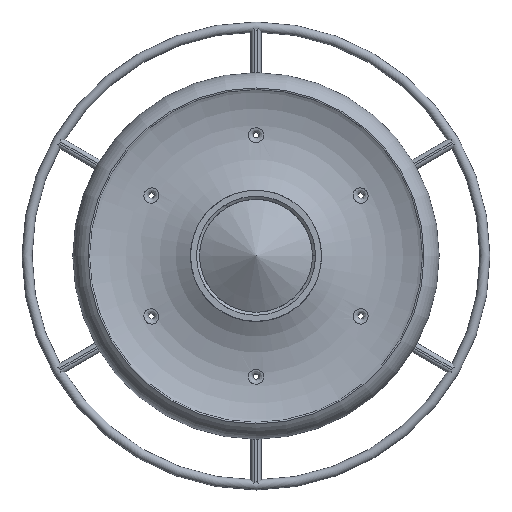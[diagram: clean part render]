
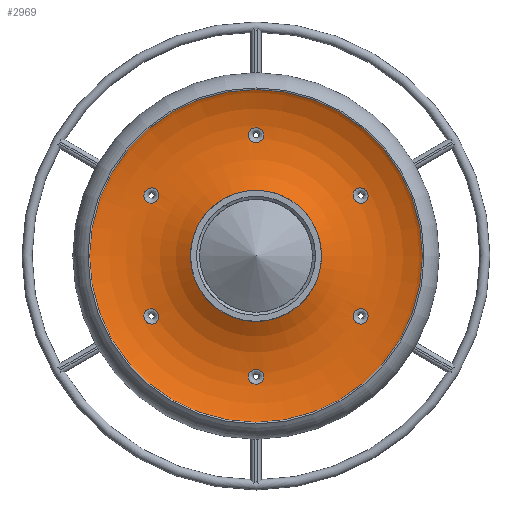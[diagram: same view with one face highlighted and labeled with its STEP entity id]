
A CAD part, top view. The second image highlights one B-rep face of the part: STEP entity #2969.
In plain terms, the highlighted toroidal (fillet/blend) face has major radius 48.65 mm and minor radius 40 mm.
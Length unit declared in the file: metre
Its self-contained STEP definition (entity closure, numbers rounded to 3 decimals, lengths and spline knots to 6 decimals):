
#21=TOROIDAL_SURFACE('',#3421,0.04865,0.04);
#64=B_SPLINE_CURVE_WITH_KNOTS('',3,(#6109,#6110,#6111,#6112,#6113,#6114,
#6115,#6116,#6117,#6118,#6119),.UNSPECIFIED.,.T.,.F.,(1,1,1,1,1,1,1,1,1,
1,1,1,1,1,1),(-0.007202,-0.004801,-0.002401,
0.,0.002401,0.004801,0.007202,
0.009602,0.012003,0.014403,0.016804,
0.019204,0.021605,0.024005,0.026406),
 .UNSPECIFIED.);
#65=B_SPLINE_CURVE_WITH_KNOTS('',3,(#6121,#6122,#6123,#6124,#6125,#6126,
#6127,#6128,#6129,#6130,#6131),.UNSPECIFIED.,.T.,.F.,(1,1,1,1,1,1,1,1,1,
1,1,1,1,1,1),(-0.007115,-0.004743,-0.002372,
0.,0.002372,0.004743,0.007115,0.009486,
0.011858,0.014229,0.016601,0.018973,
0.021344,0.023716,0.026087),.UNSPECIFIED.);
#66=B_SPLINE_CURVE_WITH_KNOTS('',3,(#6133,#6134,#6135,#6136,#6137,#6138,
#6139,#6140,#6141,#6142,#6143),.UNSPECIFIED.,.T.,.F.,(1,1,1,1,1,1,1,1,1,
1,1,1,1,1,1),(-0.007117,-0.004744,-0.002372,
0.,0.002372,0.004744,0.007117,0.009489,
0.011861,0.014233,0.016605,0.018977,
0.02135,0.023722,0.026094),.UNSPECIFIED.);
#67=B_SPLINE_CURVE_WITH_KNOTS('',3,(#6145,#6146,#6147,#6148,#6149,#6150,
#6151,#6152,#6153,#6154,#6155),.UNSPECIFIED.,.T.,.F.,(1,1,1,1,1,1,1,1,1,
1,1,1,1,1,1),(-0.007106,-0.004737,-0.002369,
0.,0.002369,0.004737,0.007106,0.009474,
0.011843,0.014212,0.01658,0.018949,
0.021317,0.023686,0.026055),.UNSPECIFIED.);
#68=B_SPLINE_CURVE_WITH_KNOTS('',3,(#6157,#6158,#6159,#6160,#6161,#6162,
#6163,#6164,#6165,#6166,#6167),.UNSPECIFIED.,.T.,.F.,(1,1,1,1,1,1,1,1,1,
1,1,1,1,1,1),(-0.007205,-0.004804,-0.002402,
0.,0.002402,0.004804,0.007205,0.009607,
0.012009,0.014411,0.016812,0.019214,
0.021616,0.024018,0.02642),.UNSPECIFIED.);
#69=B_SPLINE_CURVE_WITH_KNOTS('',3,(#6169,#6170,#6171,#6172,#6173,#6174,
#6175,#6176,#6177,#6178,#6179),.UNSPECIFIED.,.T.,.F.,(1,1,1,1,1,1,1,1,1,
1,1,1,1,1,1),(-0.007108,-0.004739,-0.002369,
0.,0.002369,0.004739,0.007108,
0.009477,0.011846,0.014216,0.016585,
0.018954,0.021324,0.023693,0.026062),
 .UNSPECIFIED.);
#126=CIRCLE('',#3422,0.02615);
#127=CIRCLE('',#3423,0.07115);
#1140=ORIENTED_EDGE('',*,*,#1580,.T.);
#1141=ORIENTED_EDGE('',*,*,#1581,.T.);
#1142=ORIENTED_EDGE('',*,*,#1582,.T.);
#1143=ORIENTED_EDGE('',*,*,#1583,.T.);
#1144=ORIENTED_EDGE('',*,*,#1584,.T.);
#1145=ORIENTED_EDGE('',*,*,#1585,.T.);
#1146=ORIENTED_EDGE('',*,*,#1586,.T.);
#1147=ORIENTED_EDGE('',*,*,#1587,.F.);
#1580=EDGE_CURVE('',#1842,#1842,#64,.T.);
#1581=EDGE_CURVE('',#1843,#1843,#65,.T.);
#1582=EDGE_CURVE('',#1844,#1844,#66,.T.);
#1583=EDGE_CURVE('',#1845,#1845,#67,.T.);
#1584=EDGE_CURVE('',#1846,#1846,#68,.T.);
#1585=EDGE_CURVE('',#1847,#1847,#69,.T.);
#1586=EDGE_CURVE('',#1848,#1848,#126,.T.);
#1587=EDGE_CURVE('',#1849,#1849,#127,.T.);
#1842=VERTEX_POINT('',#6120);
#1843=VERTEX_POINT('',#6132);
#1844=VERTEX_POINT('',#6144);
#1845=VERTEX_POINT('',#6156);
#1846=VERTEX_POINT('',#6168);
#1847=VERTEX_POINT('',#6180);
#1848=VERTEX_POINT('',#6182);
#1849=VERTEX_POINT('',#6184);
#2498=EDGE_LOOP('',(#1140));
#2499=EDGE_LOOP('',(#1141));
#2500=EDGE_LOOP('',(#1142));
#2501=EDGE_LOOP('',(#1143));
#2502=EDGE_LOOP('',(#1144));
#2503=EDGE_LOOP('',(#1145));
#2504=EDGE_LOOP('',(#1146));
#2505=EDGE_LOOP('',(#1147));
#2728=FACE_BOUND('',#2498,.T.);
#2729=FACE_BOUND('',#2499,.T.);
#2730=FACE_BOUND('',#2500,.T.);
#2731=FACE_BOUND('',#2501,.T.);
#2732=FACE_BOUND('',#2502,.T.);
#2733=FACE_BOUND('',#2503,.T.);
#2734=FACE_BOUND('',#2504,.T.);
#2735=FACE_BOUND('',#2505,.T.);
#2969=ADVANCED_FACE('',(#2728,#2729,#2730,#2731,#2732,#2733,#2734,#2735),
#21,.F.);
#3421=AXIS2_PLACEMENT_3D('',#6108,#4228,#4229);
#3422=AXIS2_PLACEMENT_3D('',#6181,#4230,#4231);
#3423=AXIS2_PLACEMENT_3D('',#6183,#4232,#4233);
#4228=DIRECTION('',(0.,0.,-1.));
#4229=DIRECTION('',(-1.,0.,0.));
#4230=DIRECTION('',(0.,0.,-1.));
#4231=DIRECTION('',(-1.,0.,0.));
#4232=DIRECTION('',(0.,0.,-1.));
#4233=DIRECTION('',(-1.,0.,0.));
#6108=CARTESIAN_POINT('',(0.,0.,0.003072));
#6109=CARTESIAN_POINT('',(0.000106,0.044977,-0.036754));
#6110=CARTESIAN_POINT('',(-0.002308,0.045788,-0.036842));
#6111=CARTESIAN_POINT('',(-0.003458,0.048111,-0.036955));
#6112=CARTESIAN_POINT('',(-0.002459,0.050498,-0.036895));
#6113=CARTESIAN_POINT('',(-0.000106,0.051474,-0.036827));
#6114=CARTESIAN_POINT('',(0.002303,0.050641,-0.036886));
#6115=CARTESIAN_POINT('',(0.003457,0.048323,-0.036956));
#6116=CARTESIAN_POINT('',(0.002464,0.045928,-0.036854));
#6117=CARTESIAN_POINT('',(0.000106,0.044977,-0.036754));
#6118=CARTESIAN_POINT('',(-0.002308,0.045788,-0.036842));
#6119=CARTESIAN_POINT('',(-0.003458,0.048111,-0.036955));
#6120=CARTESIAN_POINT('',(-0.002097,0.04604,-0.036846));
#6121=CARTESIAN_POINT('',(0.041727,0.0207,-0.036896));
#6122=CARTESIAN_POINT('',(0.039431,0.021829,-0.036764));
#6123=CARTESIAN_POINT('',(0.038455,0.024173,-0.036802));
#6124=CARTESIAN_POINT('',(0.039355,0.026585,-0.036939));
#6125=CARTESIAN_POINT('',(0.041786,0.027506,-0.036923));
#6126=CARTESIAN_POINT('',(0.044093,0.026395,-0.036835));
#6127=CARTESIAN_POINT('',(0.045061,0.024044,-0.03686));
#6128=CARTESIAN_POINT('',(0.044149,0.021634,-0.03695));
#6129=CARTESIAN_POINT('',(0.041727,0.0207,-0.036896));
#6130=CARTESIAN_POINT('',(0.039431,0.021829,-0.036764));
#6131=CARTESIAN_POINT('',(0.038455,0.024173,-0.036802));
#6132=CARTESIAN_POINT('',(0.039651,0.022032,-0.036793));
#6133=CARTESIAN_POINT('',(0.041637,-0.02751,-0.036928));
#6134=CARTESIAN_POINT('',(0.039254,-0.026478,-0.036934));
#6135=CARTESIAN_POINT('',(0.038464,-0.024024,-0.036795));
#6136=CARTESIAN_POINT('',(0.03953,-0.021727,-0.036769));
#6137=CARTESIAN_POINT('',(0.041876,-0.020692,-0.036904));
#6138=CARTESIAN_POINT('',(0.044254,-0.021747,-0.036947));
#6139=CARTESIAN_POINT('',(0.045054,-0.024197,-0.036855));
#6140=CARTESIAN_POINT('',(0.043989,-0.026501,-0.036837));
#6141=CARTESIAN_POINT('',(0.041637,-0.02751,-0.036928));
#6142=CARTESIAN_POINT('',(0.039254,-0.026478,-0.036934));
#6143=CARTESIAN_POINT('',(0.038464,-0.024024,-0.036795));
#6144=CARTESIAN_POINT('',(0.03952,-0.026241,-0.03691));
#6145=CARTESIAN_POINT('',(0.000001,-0.051474,-0.036827));
#6146=CARTESIAN_POINT('',(-0.002381,-0.050572,-0.036891));
#6147=CARTESIAN_POINT('',(-0.003459,-0.048215,-0.036955));
#6148=CARTESIAN_POINT('',(-0.002389,-0.045859,-0.036848));
#6149=CARTESIAN_POINT('',(0.,-0.044974,-0.036753));
#6150=CARTESIAN_POINT('',(0.002389,-0.045858,-0.036848));
#6151=CARTESIAN_POINT('',(0.00346,-0.04822,-0.036955));
#6152=CARTESIAN_POINT('',(0.002379,-0.050573,-0.03689));
#6153=CARTESIAN_POINT('',(0.000001,-0.051474,-0.036827));
#6154=CARTESIAN_POINT('',(-0.002381,-0.050572,-0.036891));
#6155=CARTESIAN_POINT('',(-0.003459,-0.048215,-0.036955));
#6156=CARTESIAN_POINT('',(-0.002164,-0.05033,-0.036891));
#6157=CARTESIAN_POINT('',(-0.041722,0.0207,-0.036896));
#6158=CARTESIAN_POINT('',(-0.044149,0.021633,-0.03695));
#6159=CARTESIAN_POINT('',(-0.045061,0.024044,-0.03686));
#6160=CARTESIAN_POINT('',(-0.044096,0.026391,-0.036835));
#6161=CARTESIAN_POINT('',(-0.041794,0.027505,-0.036923));
#6162=CARTESIAN_POINT('',(-0.039359,0.026591,-0.036939));
#6163=CARTESIAN_POINT('',(-0.038455,0.024175,-0.036802));
#6164=CARTESIAN_POINT('',(-0.03943,0.021832,-0.036764));
#6165=CARTESIAN_POINT('',(-0.041722,0.0207,-0.036896));
#6166=CARTESIAN_POINT('',(-0.044149,0.021633,-0.03695));
#6167=CARTESIAN_POINT('',(-0.045061,0.024044,-0.03686));
#6168=CARTESIAN_POINT('',(-0.043896,0.021879,-0.036926));
#6169=CARTESIAN_POINT('',(-0.041748,-0.027507,-0.036924));
#6170=CARTESIAN_POINT('',(-0.044068,-0.026422,-0.036835));
#6171=CARTESIAN_POINT('',(-0.045059,-0.024082,-0.036858));
#6172=CARTESIAN_POINT('',(-0.044179,-0.021665,-0.03695));
#6173=CARTESIAN_POINT('',(-0.041766,-0.020696,-0.036898));
#6174=CARTESIAN_POINT('',(-0.039456,-0.021803,-0.036765));
#6175=CARTESIAN_POINT('',(-0.038456,-0.024136,-0.0368));
#6176=CARTESIAN_POINT('',(-0.039332,-0.026561,-0.036938));
#6177=CARTESIAN_POINT('',(-0.041748,-0.027507,-0.036924));
#6178=CARTESIAN_POINT('',(-0.044068,-0.026422,-0.036835));
#6179=CARTESIAN_POINT('',(-0.045059,-0.024082,-0.036858));
#6180=CARTESIAN_POINT('',(-0.043846,-0.026213,-0.036854));
#6181=CARTESIAN_POINT('',(0.,0.,-0.03));
#6182=CARTESIAN_POINT('',(-0.02615,0.,-0.03));
#6183=CARTESIAN_POINT('',(0.,0.,-0.03));
#6184=CARTESIAN_POINT('',(-0.07115,0.,-0.03));
